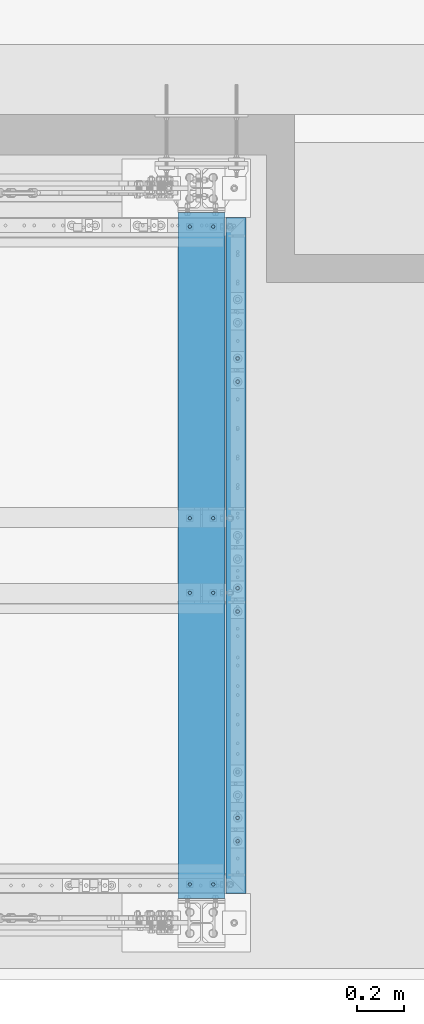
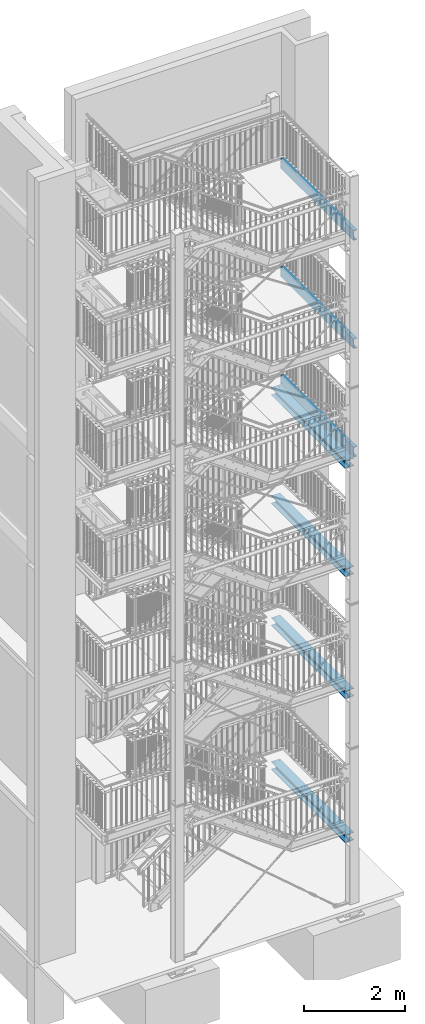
# One storey, part 132 of 831: 7 beams, 74 openings.
"""IFC2X3 building model written with IfcOpenShell, lengths in millimetres."""

from ifc_helpers import new_model, entity, si_unit, converted_unit, frame, frame_2d, origin, origin_with_axes, origin_2d, origin_2d_with_axis, place, context, project, spatial, circle, i_section, u_section, extrude, clip, halfspace, material, element, save


model = new_model("IFC2X3")

# Units and contexts
model_context = context("Model", 3, precision=1e-09, world=origin_with_axes())
ifc_project = project(units=[si_unit("LENGTHUNIT", "METRE", prefix="MILLI"), si_unit("AREAUNIT", "SQUARE_METRE"), si_unit("VOLUMEUNIT", "CUBIC_METRE"), converted_unit("PLANEANGLEUNIT", "DEGREE", entity("IfcPlaneAngleMeasure", 0.01745329), si_unit("PLANEANGLEUNIT", "RADIAN"), dimensions=[0, 0, 0, 0, 0, 0, 0])], contexts=[model_context])

# Site, building, storey
site_placement = place(None, origin_with_axes())
site = spatial("IfcSite", under=ifc_project, at=site_placement, Name="Site", CompositionType="ELEMENT")
building_placement = place(site_placement, origin_with_axes())
building = spatial("IfcBuilding", under=site, at=building_placement, Name="Struktur 1", CompositionType="ELEMENT")
storey_placement = place(building_placement, origin_with_axes())
storey = spatial("IfcBuildingStorey", under=building, at=storey_placement, Name="Default Storey", CompositionType="ELEMENT", Elevation=0.0)

# Beam, openings
ifc_material = material(Name="S235JR")
beam_1_placement = place(None, frame((8994.013402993, 7391.736971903, 11145.5000003), z_axis=(0.0, -1.0, 0.0), x_axis=(1.0, 0.0, 0.0)))
beam_1 = element("IfcBeam", 1, at=beam_1_placement, inside=storey, material=ifc_material, Name="Girder", ObjectType="Girder", context=model_context, shape_type="SweptSolid", body=[
    extrude(u_section(Depth=240.0, FlangeWidth=85.0, WebThickness=9.5, FlangeThickness=13.0, FilletRadius=13.0, EdgeRadius=6.5, FlangeSlope=4.574, at=frame_2d((20.2, 0.0))), origin(), (0.0, 0.0, 1.0), 2900.0),
])
opening_1_placement = place(beam_1_placement, frame((27.7, 120.5, 2668.0), z_axis=(0.0, 1.0, 0.0), x_axis=(-1.0, 0.0, 0.0)))
element("IfcOpeningElement", 2, at=opening_1_placement, cuts=beam_1, ObjectType="Opening", context=model_context, shape_type="SweptSolid", body=[
    extrude(circle(Radius=7.001, at=frame_2d((0.0, 7.001), x_axis=(1.0, 0.0))), origin(), (0.0, 0.0, -1.0), 14.0),
])
opening_2_placement = place(beam_1_placement, frame((27.7, 120.5, 2568.0), z_axis=(0.0, 1.0, 0.0), x_axis=(-1.0, 0.0, 0.0)))
element("IfcOpeningElement", 3, at=opening_2_placement, cuts=beam_1, ObjectType="Opening", context=model_context, shape_type="SweptSolid", body=[
    extrude(circle(Radius=7.001, at=frame_2d((0.0, 7.001), x_axis=(1.0, 0.0))), origin(), (0.0, 0.0, -1.0), 14.0),
])
opening_3_placement = place(beam_1_placement, frame((27.7, 120.5, 1682.999857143), z_axis=(0.0, 1.0, 0.0), x_axis=(-1.0, 0.0, 0.0)))
element("IfcOpeningElement", 4, at=opening_3_placement, cuts=beam_1, ObjectType="Opening", context=model_context, shape_type="SweptSolid", body=[
    extrude(circle(Radius=7.001, at=frame_2d((0.0, 7.001), x_axis=(1.0, 0.0))), origin(), (0.0, 0.0, -1.0), 14.0),
])
opening_4_placement = place(beam_1_placement, frame((27.7, 120.5, 1582.999857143), z_axis=(0.0, 1.0, 0.0), x_axis=(-1.0, 0.0, 0.0)))
element("IfcOpeningElement", 5, at=opening_4_placement, cuts=beam_1, ObjectType="Opening", context=model_context, shape_type="SweptSolid", body=[
    extrude(circle(Radius=7.001, at=frame_2d((0.0, 7.001), x_axis=(1.0, 0.0))), origin(), (0.0, 0.0, -1.0), 14.0),
])
opening_5_placement = place(beam_1_placement, frame((27.7, 120.5, 697.999714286), z_axis=(0.0, 1.0, 0.0), x_axis=(-1.0, 0.0, 0.0)))
element("IfcOpeningElement", 6, at=opening_5_placement, cuts=beam_1, ObjectType="Opening", context=model_context, shape_type="SweptSolid", body=[
    extrude(circle(Radius=7.001, at=frame_2d((0.0, 7.001), x_axis=(1.0, 0.0))), origin(), (0.0, 0.0, -1.0), 14.0),
])
opening_6_placement = place(beam_1_placement, frame((27.7, 120.5, 597.999714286), z_axis=(0.0, 1.0, 0.0), x_axis=(-1.0, 0.0, 0.0)))
element("IfcOpeningElement", 7, at=opening_6_placement, cuts=beam_1, ObjectType="Opening", context=model_context, shape_type="SweptSolid", body=[
    extrude(circle(Radius=7.001, at=frame_2d((0.0, 7.001), x_axis=(1.0, 0.0))), origin(), (0.0, 0.0, -1.0), 14.0),
])
opening_7_placement = place(beam_1_placement, frame((-12.3, 50.999, 2860.0), z_axis=(1.0, 0.0, 0.0), x_axis=(0.0, 1.0, 0.0)))
element("IfcOpeningElement", 8, at=opening_7_placement, cuts=beam_1, ObjectType="Opening", context=model_context, shape_type="SweptSolid", body=[
    extrude(circle(Radius=9.001, at=frame_2d((9.001, 0.0), x_axis=(1.0, 0.0))), origin(), (0.0, 0.0, -1.0), 10.5),
])
opening_8_placement = place(beam_1_placement, frame((-12.3, -69.001, 2860.0), z_axis=(1.0, 0.0, 0.0), x_axis=(0.0, 1.0, 0.0)))
element("IfcOpeningElement", 9, at=opening_8_placement, cuts=beam_1, ObjectType="Opening", context=model_context, shape_type="SweptSolid", body=[
    extrude(circle(Radius=9.001, at=frame_2d((9.001, 0.0), x_axis=(1.0, 0.0))), origin(), (0.0, 0.0, -1.0), 10.5),
])
opening_9_placement = place(beam_1_placement, frame((-12.3, 50.999, 1290.0), z_axis=(1.0, 0.0, 0.0), x_axis=(0.0, 1.0, 0.0)))
element("IfcOpeningElement", 10, at=opening_9_placement, cuts=beam_1, ObjectType="Opening", context=model_context, shape_type="SweptSolid", body=[
    extrude(circle(Radius=9.001, at=frame_2d((9.001, 0.0), x_axis=(1.0, 0.0))), origin(), (0.0, 0.0, -1.0), 10.5),
])
opening_10_placement = place(beam_1_placement, frame((-12.3, -69.001, 1290.0), z_axis=(1.0, 0.0, 0.0), x_axis=(0.0, 1.0, 0.0)))
element("IfcOpeningElement", 11, at=opening_10_placement, cuts=beam_1, ObjectType="Opening", context=model_context, shape_type="SweptSolid", body=[
    extrude(circle(Radius=9.001, at=frame_2d((9.001, 0.0), x_axis=(1.0, 0.0))), origin(), (0.0, 0.0, -1.0), 10.5),
])
opening_11_placement = place(beam_1_placement, frame((-12.3, 0.0, 40.0), z_axis=(-1.0, 0.0, 0.0), x_axis=(0.0, 1.0, 0.0)))
element("IfcOpeningElement", 12, at=opening_11_placement, cuts=beam_1, ObjectType="Opening", context=model_context, shape_type="SweptSolid", body=[
    extrude(circle(Radius=9.001, at=frame_2d((60.0, 0.0), x_axis=(1.0, 0.0))), origin(), (0.0, 0.0, 1.0), 10.5),
])
opening_12_placement = place(beam_1_placement, frame((-12.3, 0.0, 40.0), z_axis=(-1.0, 0.0, 0.0), x_axis=(0.0, 1.0, 0.0)))
element("IfcOpeningElement", 13, at=opening_12_placement, cuts=beam_1, ObjectType="Opening", context=model_context, shape_type="SweptSolid", body=[
    extrude(circle(Radius=9.001, at=frame_2d((-60.0, 0.0), x_axis=(1.0, 0.0))), origin(), (0.0, 0.0, 1.0), 10.5),
])
opening_13_placement = place(beam_1_placement, frame((-12.3, 0.0, 1610.0), z_axis=(-1.0, 0.0, 0.0), x_axis=(0.0, 1.0, 0.0)))
element("IfcOpeningElement", 14, at=opening_13_placement, cuts=beam_1, ObjectType="Opening", context=model_context, shape_type="SweptSolid", body=[
    extrude(circle(Radius=9.001, at=frame_2d((60.0, 0.0), x_axis=(1.0, 0.0))), origin(), (0.0, 0.0, 1.0), 10.5),
])
opening_14_placement = place(beam_1_placement, frame((-12.3, 0.0, 1610.0), z_axis=(-1.0, 0.0, 0.0), x_axis=(0.0, 1.0, 0.0)))
element("IfcOpeningElement", 15, at=opening_14_placement, cuts=beam_1, ObjectType="Opening", context=model_context, shape_type="SweptSolid", body=[
    extrude(circle(Radius=9.001, at=frame_2d((-60.0, 0.0), x_axis=(1.0, 0.0))), origin(), (0.0, 0.0, 1.0), 10.5),
])

beam_2_placement = place(None, frame((8994.013402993, 7391.736971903, 13776.5000001), z_axis=(0.0, -1.0, 0.0), x_axis=(1.0, 0.0, 0.0)))
beam_2 = element("IfcBeam", 16, at=beam_2_placement, inside=storey, material=ifc_material, Name="Girder", ObjectType="Girder", context=model_context, shape_type="SweptSolid", body=[
    extrude(u_section(Depth=240.0, FlangeWidth=85.0, WebThickness=9.5, FlangeThickness=13.0, FilletRadius=13.0, EdgeRadius=6.5, FlangeSlope=4.574, at=frame_2d((20.2, 0.0))), origin(), (0.0, 0.0, 1.0), 2900.0),
])
opening_15_placement = place(beam_2_placement, frame((27.7, 120.5, 2668.0), z_axis=(0.0, 1.0, 0.0), x_axis=(-1.0, 0.0, 0.0)))
element("IfcOpeningElement", 17, at=opening_15_placement, cuts=beam_2, ObjectType="Opening", context=model_context, shape_type="SweptSolid", body=[
    extrude(circle(Radius=7.001, at=frame_2d((0.0, 7.001), x_axis=(1.0, 0.0))), origin(), (0.0, 0.0, -1.0), 14.0),
])
opening_16_placement = place(beam_2_placement, frame((27.7, 120.5, 2568.0), z_axis=(0.0, 1.0, 0.0), x_axis=(-1.0, 0.0, 0.0)))
element("IfcOpeningElement", 18, at=opening_16_placement, cuts=beam_2, ObjectType="Opening", context=model_context, shape_type="SweptSolid", body=[
    extrude(circle(Radius=7.001, at=frame_2d((0.0, 7.001), x_axis=(1.0, 0.0))), origin(), (0.0, 0.0, -1.0), 14.0),
])
opening_17_placement = place(beam_2_placement, frame((27.7, 120.5, 1682.999857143), z_axis=(0.0, 1.0, 0.0), x_axis=(-1.0, 0.0, 0.0)))
element("IfcOpeningElement", 19, at=opening_17_placement, cuts=beam_2, ObjectType="Opening", context=model_context, shape_type="SweptSolid", body=[
    extrude(circle(Radius=7.001, at=frame_2d((0.0, 7.001), x_axis=(1.0, 0.0))), origin(), (0.0, 0.0, -1.0), 14.0),
])
opening_18_placement = place(beam_2_placement, frame((27.7, 120.5, 1582.999857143), z_axis=(0.0, 1.0, 0.0), x_axis=(-1.0, 0.0, 0.0)))
element("IfcOpeningElement", 20, at=opening_18_placement, cuts=beam_2, ObjectType="Opening", context=model_context, shape_type="SweptSolid", body=[
    extrude(circle(Radius=7.001, at=frame_2d((0.0, 7.001), x_axis=(1.0, 0.0))), origin(), (0.0, 0.0, -1.0), 14.0),
])
opening_19_placement = place(beam_2_placement, frame((27.7, 120.5, 697.999714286), z_axis=(0.0, 1.0, 0.0), x_axis=(-1.0, 0.0, 0.0)))
element("IfcOpeningElement", 21, at=opening_19_placement, cuts=beam_2, ObjectType="Opening", context=model_context, shape_type="SweptSolid", body=[
    extrude(circle(Radius=7.001, at=frame_2d((0.0, 7.001), x_axis=(1.0, 0.0))), origin(), (0.0, 0.0, -1.0), 14.0),
])
opening_20_placement = place(beam_2_placement, frame((27.7, 120.5, 597.999714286), z_axis=(0.0, 1.0, 0.0), x_axis=(-1.0, 0.0, 0.0)))
element("IfcOpeningElement", 22, at=opening_20_placement, cuts=beam_2, ObjectType="Opening", context=model_context, shape_type="SweptSolid", body=[
    extrude(circle(Radius=7.001, at=frame_2d((0.0, 7.001), x_axis=(1.0, 0.0))), origin(), (0.0, 0.0, -1.0), 14.0),
])
opening_21_placement = place(beam_2_placement, frame((-12.3, 0.0, 1610.0), z_axis=(-1.0, 0.0, 0.0), x_axis=(0.0, 1.0, 0.0)))
element("IfcOpeningElement", 23, at=opening_21_placement, cuts=beam_2, ObjectType="Opening", context=model_context, shape_type="SweptSolid", body=[
    extrude(circle(Radius=9.001, at=frame_2d((60.0, 0.0), x_axis=(1.0, 0.0))), origin(), (0.0, 0.0, 1.0), 10.5),
])
opening_22_placement = place(beam_2_placement, frame((-12.3, 0.0, 1610.0), z_axis=(-1.0, 0.0, 0.0), x_axis=(0.0, 1.0, 0.0)))
element("IfcOpeningElement", 24, at=opening_22_placement, cuts=beam_2, ObjectType="Opening", context=model_context, shape_type="SweptSolid", body=[
    extrude(circle(Radius=9.001, at=frame_2d((-60.0, 0.0), x_axis=(1.0, 0.0))), origin(), (0.0, 0.0, 1.0), 10.5),
])
opening_23_placement = place(beam_2_placement, frame((-12.3, 0.0, 40.0), z_axis=(-1.0, 0.0, 0.0), x_axis=(0.0, 1.0, 0.0)))
element("IfcOpeningElement", 25, at=opening_23_placement, cuts=beam_2, ObjectType="Opening", context=model_context, shape_type="SweptSolid", body=[
    extrude(circle(Radius=9.001, at=frame_2d((60.0, 0.0), x_axis=(1.0, 0.0))), origin(), (0.0, 0.0, 1.0), 10.5),
])
opening_24_placement = place(beam_2_placement, frame((-12.3, 0.0, 40.0), z_axis=(-1.0, 0.0, 0.0), x_axis=(0.0, 1.0, 0.0)))
element("IfcOpeningElement", 26, at=opening_24_placement, cuts=beam_2, ObjectType="Opening", context=model_context, shape_type="SweptSolid", body=[
    extrude(circle(Radius=9.001, at=frame_2d((-60.0, 0.0), x_axis=(1.0, 0.0))), origin(), (0.0, 0.0, 1.0), 10.5),
])
opening_25_placement = place(beam_2_placement, frame((-12.3, 50.999, 2860.0), z_axis=(1.0, 0.0, 0.0), x_axis=(0.0, 1.0, 0.0)))
element("IfcOpeningElement", 27, at=opening_25_placement, cuts=beam_2, ObjectType="Opening", context=model_context, shape_type="SweptSolid", body=[
    extrude(circle(Radius=9.001, at=frame_2d((9.001, 0.0), x_axis=(1.0, 0.0))), origin(), (0.0, 0.0, -1.0), 10.5),
])
opening_26_placement = place(beam_2_placement, frame((-12.3, -69.001, 2860.0), z_axis=(1.0, 0.0, 0.0), x_axis=(0.0, 1.0, 0.0)))
element("IfcOpeningElement", 28, at=opening_26_placement, cuts=beam_2, ObjectType="Opening", context=model_context, shape_type="SweptSolid", body=[
    extrude(circle(Radius=9.001, at=frame_2d((9.001, 0.0), x_axis=(1.0, 0.0))), origin(), (0.0, 0.0, -1.0), 10.5),
])
opening_27_placement = place(beam_2_placement, frame((-12.3, 50.999, 1290.0), z_axis=(1.0, 0.0, 0.0), x_axis=(0.0, 1.0, 0.0)))
element("IfcOpeningElement", 29, at=opening_27_placement, cuts=beam_2, ObjectType="Opening", context=model_context, shape_type="SweptSolid", body=[
    extrude(circle(Radius=9.001, at=frame_2d((9.001, 0.0), x_axis=(1.0, 0.0))), origin(), (0.0, 0.0, -1.0), 10.5),
])
opening_28_placement = place(beam_2_placement, frame((-12.3, -69.001, 1290.0), z_axis=(1.0, 0.0, 0.0), x_axis=(0.0, 1.0, 0.0)))
element("IfcOpeningElement", 30, at=opening_28_placement, cuts=beam_2, ObjectType="Opening", context=model_context, shape_type="SweptSolid", body=[
    extrude(circle(Radius=9.001, at=frame_2d((9.001, 0.0), x_axis=(1.0, 0.0))), origin(), (0.0, 0.0, -1.0), 10.5),
])

beam_3_placement = place(None, frame((8994.013402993, 7391.736971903, 16404.0000003), z_axis=(0.0, -1.0, 0.0), x_axis=(1.0, 0.0, 0.0)))
beam_3 = element("IfcBeam", 31, at=beam_3_placement, inside=storey, material=ifc_material, Name="Girder", ObjectType="Girder", context=model_context, shape_type="SweptSolid", body=[
    extrude(u_section(Depth=240.0, FlangeWidth=85.0, WebThickness=9.5, FlangeThickness=13.0, FilletRadius=13.0, EdgeRadius=6.5, FlangeSlope=4.574, at=frame_2d((20.2, 0.0))), origin(), (0.0, 0.0, 1.0), 2900.0),
])
opening_29_placement = place(beam_3_placement, frame((27.7, 120.5, 2668.0), z_axis=(0.0, 1.0, 0.0), x_axis=(-1.0, 0.0, 0.0)))
element("IfcOpeningElement", 32, at=opening_29_placement, cuts=beam_3, ObjectType="Opening", context=model_context, shape_type="SweptSolid", body=[
    extrude(circle(Radius=7.001, at=frame_2d((0.0, 7.001), x_axis=(1.0, 0.0))), origin(), (0.0, 0.0, -1.0), 14.0),
])
opening_30_placement = place(beam_3_placement, frame((27.7, 120.5, 2568.0), z_axis=(0.0, 1.0, 0.0), x_axis=(-1.0, 0.0, 0.0)))
element("IfcOpeningElement", 33, at=opening_30_placement, cuts=beam_3, ObjectType="Opening", context=model_context, shape_type="SweptSolid", body=[
    extrude(circle(Radius=7.001, at=frame_2d((0.0, 7.001), x_axis=(1.0, 0.0))), origin(), (0.0, 0.0, -1.0), 14.0),
])
opening_31_placement = place(beam_3_placement, frame((27.7, 120.5, 1682.999857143), z_axis=(0.0, 1.0, 0.0), x_axis=(-1.0, 0.0, 0.0)))
element("IfcOpeningElement", 34, at=opening_31_placement, cuts=beam_3, ObjectType="Opening", context=model_context, shape_type="SweptSolid", body=[
    extrude(circle(Radius=7.001, at=frame_2d((0.0, 7.001), x_axis=(1.0, 0.0))), origin(), (0.0, 0.0, -1.0), 14.0),
])
opening_32_placement = place(beam_3_placement, frame((27.7, 120.5, 1582.999857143), z_axis=(0.0, 1.0, 0.0), x_axis=(-1.0, 0.0, 0.0)))
element("IfcOpeningElement", 35, at=opening_32_placement, cuts=beam_3, ObjectType="Opening", context=model_context, shape_type="SweptSolid", body=[
    extrude(circle(Radius=7.001, at=frame_2d((0.0, 7.001), x_axis=(1.0, 0.0))), origin(), (0.0, 0.0, -1.0), 14.0),
])
opening_33_placement = place(beam_3_placement, frame((27.7, 120.5, 697.999714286), z_axis=(0.0, 1.0, 0.0), x_axis=(-1.0, 0.0, 0.0)))
element("IfcOpeningElement", 36, at=opening_33_placement, cuts=beam_3, ObjectType="Opening", context=model_context, shape_type="SweptSolid", body=[
    extrude(circle(Radius=7.001, at=frame_2d((0.0, 7.001), x_axis=(1.0, 0.0))), origin(), (0.0, 0.0, -1.0), 14.0),
])
opening_34_placement = place(beam_3_placement, frame((27.7, 120.5, 597.999714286), z_axis=(0.0, 1.0, 0.0), x_axis=(-1.0, 0.0, 0.0)))
element("IfcOpeningElement", 37, at=opening_34_placement, cuts=beam_3, ObjectType="Opening", context=model_context, shape_type="SweptSolid", body=[
    extrude(circle(Radius=7.001, at=frame_2d((0.0, 7.001), x_axis=(1.0, 0.0))), origin(), (0.0, 0.0, -1.0), 14.0),
])
opening_35_placement = place(beam_3_placement, frame((-12.3, 50.999, 2860.0), z_axis=(1.0, 0.0, 0.0), x_axis=(0.0, 1.0, 0.0)))
element("IfcOpeningElement", 38, at=opening_35_placement, cuts=beam_3, ObjectType="Opening", context=model_context, shape_type="SweptSolid", body=[
    extrude(circle(Radius=9.001, at=frame_2d((9.001, 0.0), x_axis=(1.0, 0.0))), origin(), (0.0, 0.0, -1.0), 10.5),
])
opening_36_placement = place(beam_3_placement, frame((-12.3, -69.001, 2860.0), z_axis=(1.0, 0.0, 0.0), x_axis=(0.0, 1.0, 0.0)))
element("IfcOpeningElement", 39, at=opening_36_placement, cuts=beam_3, ObjectType="Opening", context=model_context, shape_type="SweptSolid", body=[
    extrude(circle(Radius=9.001, at=frame_2d((9.001, 0.0), x_axis=(1.0, 0.0))), origin(), (0.0, 0.0, -1.0), 10.5),
])
opening_37_placement = place(beam_3_placement, frame((-12.3, 50.999, 1290.0), z_axis=(1.0, 0.0, 0.0), x_axis=(0.0, 1.0, 0.0)))
element("IfcOpeningElement", 40, at=opening_37_placement, cuts=beam_3, ObjectType="Opening", context=model_context, shape_type="SweptSolid", body=[
    extrude(circle(Radius=9.001, at=frame_2d((9.001, 0.0), x_axis=(1.0, 0.0))), origin(), (0.0, 0.0, -1.0), 10.5),
])
opening_38_placement = place(beam_3_placement, frame((-12.3, -69.001, 1290.0), z_axis=(1.0, 0.0, 0.0), x_axis=(0.0, 1.0, 0.0)))
element("IfcOpeningElement", 41, at=opening_38_placement, cuts=beam_3, ObjectType="Opening", context=model_context, shape_type="SweptSolid", body=[
    extrude(circle(Radius=9.001, at=frame_2d((9.001, 0.0), x_axis=(1.0, 0.0))), origin(), (0.0, 0.0, -1.0), 10.5),
])
opening_39_placement = place(beam_3_placement, frame((-12.3, 0.0, 40.0), z_axis=(-1.0, 0.0, 0.0), x_axis=(0.0, 1.0, 0.0)))
element("IfcOpeningElement", 42, at=opening_39_placement, cuts=beam_3, ObjectType="Opening", context=model_context, shape_type="SweptSolid", body=[
    extrude(circle(Radius=9.001, at=frame_2d((60.0, 0.0), x_axis=(1.0, 0.0))), origin(), (0.0, 0.0, 1.0), 10.5),
])
opening_40_placement = place(beam_3_placement, frame((-12.3, 0.0, 40.0), z_axis=(-1.0, 0.0, 0.0), x_axis=(0.0, 1.0, 0.0)))
element("IfcOpeningElement", 43, at=opening_40_placement, cuts=beam_3, ObjectType="Opening", context=model_context, shape_type="SweptSolid", body=[
    extrude(circle(Radius=9.001, at=frame_2d((-60.0, 0.0), x_axis=(1.0, 0.0))), origin(), (0.0, 0.0, 1.0), 10.5),
])
opening_41_placement = place(beam_3_placement, frame((-12.3, 0.0, 1610.0), z_axis=(-1.0, 0.0, 0.0), x_axis=(0.0, 1.0, 0.0)))
element("IfcOpeningElement", 44, at=opening_41_placement, cuts=beam_3, ObjectType="Opening", context=model_context, shape_type="SweptSolid", body=[
    extrude(circle(Radius=9.001, at=frame_2d((60.0, 0.0), x_axis=(1.0, 0.0))), origin(), (0.0, 0.0, 1.0), 10.5),
])
opening_42_placement = place(beam_3_placement, frame((-12.3, 0.0, 1610.0), z_axis=(-1.0, 0.0, 0.0), x_axis=(0.0, 1.0, 0.0)))
element("IfcOpeningElement", 45, at=opening_42_placement, cuts=beam_3, ObjectType="Opening", context=model_context, shape_type="SweptSolid", body=[
    extrude(circle(Radius=9.001, at=frame_2d((-60.0, 0.0), x_axis=(1.0, 0.0))), origin(), (0.0, 0.0, 1.0), 10.5),
])

beam_4_placement = place(None, frame((8866.713402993, 7559.668114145, 5339.8947367), z_axis=(0.0, -1.0, 0.0), x_axis=(-1.0, 0.0, 0.0)))
beam_4 = element("IfcBeam", 46, at=beam_4_placement, inside=storey, material=ifc_material, Name="Girder", ObjectType="Girder", context=model_context, shape_type="Clipping", body=[
    clip(clip(extrude(i_section(OverallWidth=200.0, OverallDepth=190.0, WebThickness=6.5, FlangeThickness=10.0, FilletRadius=18.0, at=origin_2d()), origin(), (0.0, 0.0, 1.0), 3235.862284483), halfspace(frame((8866.713402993, 5339.8947367, 3087.930142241), z_axis=(0.0, 0.0, -1.0), x_axis=(1.0, 0.0, 0.0)), True)), halfspace(frame((8866.713402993, 5339.8947367, 147.932142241), z_axis=(0.0, 0.0, 1.0), x_axis=(-1.0, 0.0, 0.0)), True)),
])
opening_43_placement = place(beam_4_placement, frame((50.0, -84.5, 1784.932142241), z_axis=(0.0, 1.0, 0.0), x_axis=(-1.0, 0.0, 0.0)))
element("IfcOpeningElement", 47, at=opening_43_placement, cuts=beam_4, ObjectType="Opening", context=model_context, shape_type="SweptSolid", body=[
    extrude(circle(Radius=7.001, at=frame_2d((0.0, -7.001), x_axis=(1.0, 0.0))), origin(), (0.0, 0.0, -1.0), 11.0),
])
opening_44_placement = place(beam_4_placement, frame((50.0, -84.5, 3034.932142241), z_axis=(0.0, 1.0, 0.0), x_axis=(-1.0, 0.0, 0.0)))
element("IfcOpeningElement", 48, at=opening_44_placement, cuts=beam_4, ObjectType="Opening", context=model_context, shape_type="SweptSolid", body=[
    extrude(circle(Radius=7.001, at=frame_2d((0.0, -7.001), x_axis=(1.0, 0.0))), origin(), (0.0, 0.0, -1.0), 11.0),
])
opening_45_placement = place(beam_4_placement, frame((-50.0, -84.5, 1457.931142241), z_axis=(0.0, -1.0, 0.0), x_axis=(0.0, 0.0, -1.0)))
element("IfcOpeningElement", 49, at=opening_45_placement, cuts=beam_4, ObjectType="Opening", context=model_context, shape_type="SweptSolid", body=[
    extrude(circle(Radius=7.001, at=origin_2d_with_axis()), origin(), (0.0, 0.0, 1.0), 11.0),
])
opening_46_placement = place(beam_4_placement, frame((-50.0, -84.5, 3034.932142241), z_axis=(0.0, 1.0, 0.0), x_axis=(-1.0, 0.0, 0.0)))
element("IfcOpeningElement", 50, at=opening_46_placement, cuts=beam_4, ObjectType="Opening", context=model_context, shape_type="SweptSolid", body=[
    extrude(circle(Radius=7.001, at=frame_2d((0.0, -7.001), x_axis=(1.0, 0.0))), origin(), (0.0, 0.0, -1.0), 11.0),
])
opening_47_placement = place(beam_4_placement, frame((-50.0, -84.5, 1784.932142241), z_axis=(0.0, 1.0, 0.0), x_axis=(-1.0, 0.0, 0.0)))
element("IfcOpeningElement", 51, at=opening_47_placement, cuts=beam_4, ObjectType="Opening", context=model_context, shape_type="SweptSolid", body=[
    extrude(circle(Radius=7.001, at=frame_2d((0.0, -7.001), x_axis=(1.0, 0.0))), origin(), (0.0, 0.0, -1.0), 11.0),
])
opening_48_placement = place(beam_4_placement, frame((-50.0, -84.5, 207.931142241), z_axis=(0.0, -1.0, 0.0), x_axis=(0.0, 0.0, -1.0)))
element("IfcOpeningElement", 52, at=opening_48_placement, cuts=beam_4, ObjectType="Opening", context=model_context, shape_type="SweptSolid", body=[
    extrude(circle(Radius=7.001, at=origin_2d_with_axis()), origin(), (0.0, 0.0, 1.0), 11.0),
])
opening_49_placement = place(beam_4_placement, frame((50.0, -84.5, 1457.931142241), z_axis=(0.0, -1.0, 0.0), x_axis=(0.0, 0.0, -1.0)))
element("IfcOpeningElement", 53, at=opening_49_placement, cuts=beam_4, ObjectType="Opening", context=model_context, shape_type="SweptSolid", body=[
    extrude(circle(Radius=7.001, at=origin_2d_with_axis()), origin(), (0.0, 0.0, 1.0), 11.0),
])
opening_50_placement = place(beam_4_placement, frame((50.0, -84.5, 207.931142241), z_axis=(0.0, -1.0, 0.0), x_axis=(0.0, 0.0, -1.0)))
element("IfcOpeningElement", 54, at=opening_50_placement, cuts=beam_4, ObjectType="Opening", context=model_context, shape_type="SweptSolid", body=[
    extrude(circle(Radius=7.001, at=origin_2d_with_axis()), origin(), (0.0, 0.0, 1.0), 11.0),
])

beam_5_placement = place(None, frame((8866.713402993, 7559.668114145, 1846.0526312), z_axis=(0.0, -1.0, 0.0), x_axis=(-1.0, 0.0, 0.0)))
beam_5 = element("IfcBeam", 55, at=beam_5_placement, inside=storey, material=ifc_material, Name="Girder", ObjectType="Girder", context=model_context, shape_type="Clipping", body=[
    clip(clip(extrude(i_section(OverallWidth=200.0, OverallDepth=190.0, WebThickness=6.5, FlangeThickness=10.0, FilletRadius=18.0, at=origin_2d()), origin(), (0.0, 0.0, 1.0), 3235.862284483), halfspace(frame((8866.713402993, 1846.0526312, 147.932142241), z_axis=(0.0, 0.0, 1.0), x_axis=(-1.0, 0.0, 0.0)), True)), halfspace(frame((8866.713402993, 1846.0526312, 3087.930142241), z_axis=(0.0, 0.0, -1.0), x_axis=(1.0, 0.0, 0.0)), True)),
])
opening_51_placement = place(beam_5_placement, frame((-50.0, -84.5, 1784.932142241), z_axis=(0.0, 1.0, 0.0), x_axis=(-1.0, 0.0, 0.0)))
element("IfcOpeningElement", 56, at=opening_51_placement, cuts=beam_5, ObjectType="Opening", context=model_context, shape_type="SweptSolid", body=[
    extrude(circle(Radius=7.001, at=frame_2d((0.0, -7.001), x_axis=(1.0, 0.0))), origin(), (0.0, 0.0, -1.0), 11.0),
])
opening_52_placement = place(beam_5_placement, frame((50.0, -84.5, 207.931142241), z_axis=(0.0, -1.0, 0.0), x_axis=(0.0, 0.0, -1.0)))
element("IfcOpeningElement", 57, at=opening_52_placement, cuts=beam_5, ObjectType="Opening", context=model_context, shape_type="SweptSolid", body=[
    extrude(circle(Radius=7.001, at=origin_2d_with_axis()), origin(), (0.0, 0.0, 1.0), 11.0),
])
opening_53_placement = place(beam_5_placement, frame((50.0, -84.5, 1457.931142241), z_axis=(0.0, -1.0, 0.0), x_axis=(0.0, 0.0, -1.0)))
element("IfcOpeningElement", 58, at=opening_53_placement, cuts=beam_5, ObjectType="Opening", context=model_context, shape_type="SweptSolid", body=[
    extrude(circle(Radius=7.001, at=origin_2d_with_axis()), origin(), (0.0, 0.0, 1.0), 11.0),
])
opening_54_placement = place(beam_5_placement, frame((50.0, -84.5, 3034.932142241), z_axis=(0.0, 1.0, 0.0), x_axis=(-1.0, 0.0, 0.0)))
element("IfcOpeningElement", 59, at=opening_54_placement, cuts=beam_5, ObjectType="Opening", context=model_context, shape_type="SweptSolid", body=[
    extrude(circle(Radius=7.001, at=frame_2d((0.0, -7.001), x_axis=(1.0, 0.0))), origin(), (0.0, 0.0, -1.0), 11.0),
])
opening_55_placement = place(beam_5_placement, frame((-50.0, -84.5, 207.931142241), z_axis=(0.0, -1.0, 0.0), x_axis=(0.0, 0.0, -1.0)))
element("IfcOpeningElement", 60, at=opening_55_placement, cuts=beam_5, ObjectType="Opening", context=model_context, shape_type="SweptSolid", body=[
    extrude(circle(Radius=7.001, at=origin_2d_with_axis()), origin(), (0.0, 0.0, 1.0), 11.0),
])
opening_56_placement = place(beam_5_placement, frame((-50.0, -84.5, 3034.932142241), z_axis=(0.0, 1.0, 0.0), x_axis=(-1.0, 0.0, 0.0)))
element("IfcOpeningElement", 61, at=opening_56_placement, cuts=beam_5, ObjectType="Opening", context=model_context, shape_type="SweptSolid", body=[
    extrude(circle(Radius=7.001, at=frame_2d((0.0, -7.001), x_axis=(1.0, 0.0))), origin(), (0.0, 0.0, -1.0), 11.0),
])
opening_57_placement = place(beam_5_placement, frame((-50.0, -84.5, 1457.931142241), z_axis=(0.0, -1.0, 0.0), x_axis=(0.0, 0.0, -1.0)))
element("IfcOpeningElement", 62, at=opening_57_placement, cuts=beam_5, ObjectType="Opening", context=model_context, shape_type="SweptSolid", body=[
    extrude(circle(Radius=7.001, at=origin_2d_with_axis()), origin(), (0.0, 0.0, 1.0), 11.0),
])
opening_58_placement = place(beam_5_placement, frame((50.0, -84.5, 1784.932142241), z_axis=(0.0, 1.0, 0.0), x_axis=(-1.0, 0.0, 0.0)))
element("IfcOpeningElement", 63, at=opening_58_placement, cuts=beam_5, ObjectType="Opening", context=model_context, shape_type="SweptSolid", body=[
    extrude(circle(Radius=7.001, at=frame_2d((0.0, -7.001), x_axis=(1.0, 0.0))), origin(), (0.0, 0.0, -1.0), 11.0),
])

beam_6_placement = place(None, frame((8866.713402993, 7559.668114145, 8301.0), z_axis=(0.0, -1.0, 0.0), x_axis=(-1.0, 0.0, 0.0)))
beam_6 = element("IfcBeam", 64, at=beam_6_placement, inside=storey, material=ifc_material, Name="Girder", ObjectType="Girder", context=model_context, shape_type="Clipping", body=[
    clip(clip(extrude(i_section(OverallWidth=200.0, OverallDepth=190.0, WebThickness=6.5, FlangeThickness=10.0, FilletRadius=18.0, at=origin_2d()), origin(), (0.0, 0.0, 1.0), 3235.862284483), halfspace(frame((8866.713402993, 8301.0, 3087.930142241), z_axis=(0.0, 0.0, -1.0), x_axis=(1.0, 0.0, 0.0)), True)), halfspace(frame((8866.713402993, 8301.0, 147.932142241), z_axis=(0.0, 0.0, 1.0), x_axis=(-1.0, 0.0, 0.0)), True)),
])
opening_59_placement = place(beam_6_placement, frame((-50.0, -84.5, 207.931142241), z_axis=(0.0, -1.0, 0.0), x_axis=(0.0, 0.0, -1.0)))
element("IfcOpeningElement", 65, at=opening_59_placement, cuts=beam_6, ObjectType="Opening", context=model_context, shape_type="SweptSolid", body=[
    extrude(circle(Radius=7.001, at=origin_2d_with_axis()), origin(), (0.0, 0.0, 1.0), 11.0),
])
opening_60_placement = place(beam_6_placement, frame((50.0, -84.5, 3034.932142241), z_axis=(0.0, 1.0, 0.0), x_axis=(-1.0, 0.0, 0.0)))
element("IfcOpeningElement", 66, at=opening_60_placement, cuts=beam_6, ObjectType="Opening", context=model_context, shape_type="SweptSolid", body=[
    extrude(circle(Radius=7.001, at=frame_2d((0.0, -7.001), x_axis=(1.0, 0.0))), origin(), (0.0, 0.0, -1.0), 11.0),
])
opening_61_placement = place(beam_6_placement, frame((50.0, -84.5, 1784.932142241), z_axis=(0.0, 1.0, 0.0), x_axis=(-1.0, 0.0, 0.0)))
element("IfcOpeningElement", 67, at=opening_61_placement, cuts=beam_6, ObjectType="Opening", context=model_context, shape_type="SweptSolid", body=[
    extrude(circle(Radius=7.001, at=frame_2d((0.0, -7.001), x_axis=(1.0, 0.0))), origin(), (0.0, 0.0, -1.0), 11.0),
])
opening_62_placement = place(beam_6_placement, frame((-50.0, -84.5, 3034.932142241), z_axis=(0.0, 1.0, 0.0), x_axis=(-1.0, 0.0, 0.0)))
element("IfcOpeningElement", 68, at=opening_62_placement, cuts=beam_6, ObjectType="Opening", context=model_context, shape_type="SweptSolid", body=[
    extrude(circle(Radius=7.001, at=frame_2d((0.0, -7.001), x_axis=(1.0, 0.0))), origin(), (0.0, 0.0, -1.0), 11.0),
])
opening_63_placement = place(beam_6_placement, frame((50.0, -84.5, 1457.931142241), z_axis=(0.0, -1.0, 0.0), x_axis=(0.0, 0.0, -1.0)))
element("IfcOpeningElement", 69, at=opening_63_placement, cuts=beam_6, ObjectType="Opening", context=model_context, shape_type="SweptSolid", body=[
    extrude(circle(Radius=7.001, at=origin_2d_with_axis()), origin(), (0.0, 0.0, 1.0), 11.0),
])
opening_64_placement = place(beam_6_placement, frame((50.0, -84.5, 207.931142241), z_axis=(0.0, -1.0, 0.0), x_axis=(0.0, 0.0, -1.0)))
element("IfcOpeningElement", 70, at=opening_64_placement, cuts=beam_6, ObjectType="Opening", context=model_context, shape_type="SweptSolid", body=[
    extrude(circle(Radius=7.001, at=origin_2d_with_axis()), origin(), (0.0, 0.0, 1.0), 11.0),
])
opening_65_placement = place(beam_6_placement, frame((-50.0, -84.5, 1784.932142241), z_axis=(0.0, 1.0, 0.0), x_axis=(-1.0, 0.0, 0.0)))
element("IfcOpeningElement", 71, at=opening_65_placement, cuts=beam_6, ObjectType="Opening", context=model_context, shape_type="SweptSolid", body=[
    extrude(circle(Radius=7.001, at=frame_2d((0.0, -7.001), x_axis=(1.0, 0.0))), origin(), (0.0, 0.0, -1.0), 11.0),
])
opening_66_placement = place(beam_6_placement, frame((-50.0, -84.5, 1457.931142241), z_axis=(0.0, -1.0, 0.0), x_axis=(0.0, 0.0, -1.0)))
element("IfcOpeningElement", 72, at=opening_66_placement, cuts=beam_6, ObjectType="Opening", context=model_context, shape_type="SweptSolid", body=[
    extrude(circle(Radius=7.001, at=origin_2d_with_axis()), origin(), (0.0, 0.0, 1.0), 11.0),
])

beam_7_placement = place(None, frame((8866.713402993, 7559.668114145, 10930.5000003), z_axis=(0.0, -1.0, 0.0), x_axis=(-1.0, 0.0, 0.0)))
beam_7 = element("IfcBeam", 73, at=beam_7_placement, inside=storey, material=ifc_material, Name="Girder", ObjectType="Girder", context=model_context, shape_type="Clipping", body=[
    clip(clip(extrude(i_section(OverallWidth=200.0, OverallDepth=190.0, WebThickness=6.5, FlangeThickness=10.0, FilletRadius=18.0, at=origin_2d()), origin(), (0.0, 0.0, 1.0), 3235.862284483), halfspace(frame((8866.713402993, 10930.5000003, 3087.930142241), z_axis=(0.0, 0.0, -1.0), x_axis=(1.0, 0.0, 0.0)), True)), halfspace(frame((8866.713402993, 10930.5000003, 147.932142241), z_axis=(0.0, 0.0, 1.0), x_axis=(-1.0, 0.0, 0.0)), True)),
])
opening_67_placement = place(beam_7_placement, frame((-50.0, -84.5, 1784.932142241), z_axis=(0.0, 1.0, 0.0), x_axis=(-1.0, 0.0, 0.0)))
element("IfcOpeningElement", 74, at=opening_67_placement, cuts=beam_7, ObjectType="Opening", context=model_context, shape_type="SweptSolid", body=[
    extrude(circle(Radius=7.001, at=frame_2d((0.0, -7.001), x_axis=(1.0, 0.0))), origin(), (0.0, 0.0, -1.0), 11.0),
])
opening_68_placement = place(beam_7_placement, frame((50.0, -84.5, 1457.931142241), z_axis=(0.0, -1.0, 0.0), x_axis=(0.0, 0.0, -1.0)))
element("IfcOpeningElement", 75, at=opening_68_placement, cuts=beam_7, ObjectType="Opening", context=model_context, shape_type="SweptSolid", body=[
    extrude(circle(Radius=7.001, at=origin_2d_with_axis()), origin(), (0.0, 0.0, 1.0), 11.0),
])
opening_69_placement = place(beam_7_placement, frame((50.0, -84.5, 207.931142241), z_axis=(0.0, -1.0, 0.0), x_axis=(0.0, 0.0, -1.0)))
element("IfcOpeningElement", 76, at=opening_69_placement, cuts=beam_7, ObjectType="Opening", context=model_context, shape_type="SweptSolid", body=[
    extrude(circle(Radius=7.001, at=origin_2d_with_axis()), origin(), (0.0, 0.0, 1.0), 11.0),
])
opening_70_placement = place(beam_7_placement, frame((50.0, -84.5, 3034.932142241), z_axis=(0.0, 1.0, 0.0), x_axis=(-1.0, 0.0, 0.0)))
element("IfcOpeningElement", 77, at=opening_70_placement, cuts=beam_7, ObjectType="Opening", context=model_context, shape_type="SweptSolid", body=[
    extrude(circle(Radius=7.001, at=frame_2d((0.0, -7.001), x_axis=(1.0, 0.0))), origin(), (0.0, 0.0, -1.0), 11.0),
])
opening_71_placement = place(beam_7_placement, frame((-50.0, -84.5, 207.931142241), z_axis=(0.0, -1.0, 0.0), x_axis=(0.0, 0.0, -1.0)))
element("IfcOpeningElement", 78, at=opening_71_placement, cuts=beam_7, ObjectType="Opening", context=model_context, shape_type="SweptSolid", body=[
    extrude(circle(Radius=7.001, at=origin_2d_with_axis()), origin(), (0.0, 0.0, 1.0), 11.0),
])
opening_72_placement = place(beam_7_placement, frame((50.0, -84.5, 1784.932142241), z_axis=(0.0, 1.0, 0.0), x_axis=(-1.0, 0.0, 0.0)))
element("IfcOpeningElement", 79, at=opening_72_placement, cuts=beam_7, ObjectType="Opening", context=model_context, shape_type="SweptSolid", body=[
    extrude(circle(Radius=7.001, at=frame_2d((0.0, -7.001), x_axis=(1.0, 0.0))), origin(), (0.0, 0.0, -1.0), 11.0),
])
opening_73_placement = place(beam_7_placement, frame((-50.0, -84.5, 1457.931142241), z_axis=(0.0, -1.0, 0.0), x_axis=(0.0, 0.0, -1.0)))
element("IfcOpeningElement", 80, at=opening_73_placement, cuts=beam_7, ObjectType="Opening", context=model_context, shape_type="SweptSolid", body=[
    extrude(circle(Radius=7.001, at=origin_2d_with_axis()), origin(), (0.0, 0.0, 1.0), 11.0),
])
opening_74_placement = place(beam_7_placement, frame((-50.0, -84.5, 3034.932142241), z_axis=(0.0, 1.0, 0.0), x_axis=(-1.0, 0.0, 0.0)))
element("IfcOpeningElement", 81, at=opening_74_placement, cuts=beam_7, ObjectType="Opening", context=model_context, shape_type="SweptSolid", body=[
    extrude(circle(Radius=7.001, at=frame_2d((0.0, -7.001), x_axis=(1.0, 0.0))), origin(), (0.0, 0.0, -1.0), 11.0),
])

save(model, "model.ifc")
